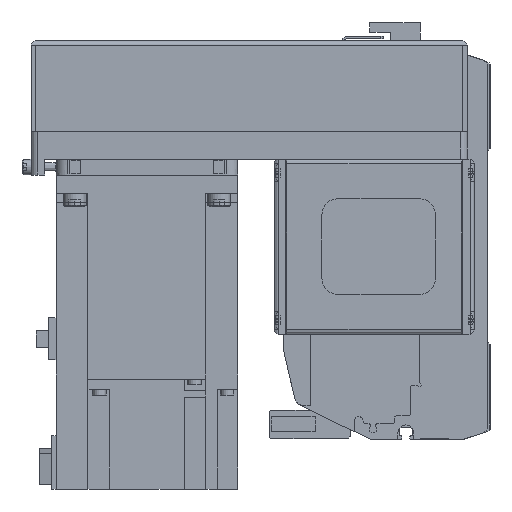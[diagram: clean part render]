
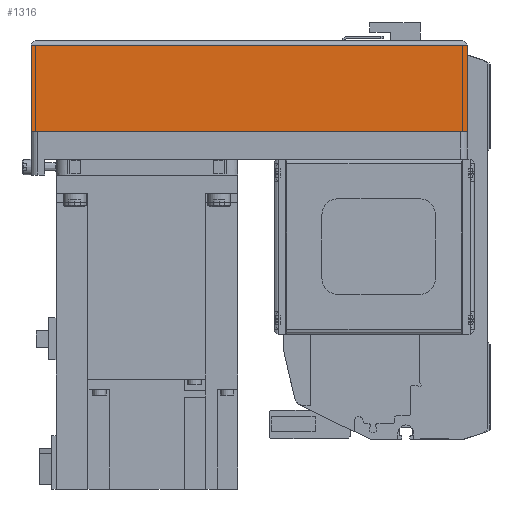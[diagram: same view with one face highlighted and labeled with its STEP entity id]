
A CAD part, left-side view. The second image highlights one B-rep face of the part: STEP entity #1316.
In plain terms, the highlighted planar face has unit normal (-1, 0, 0) as drawn and (0, 1, 0) by its records, which use the part's own axes.
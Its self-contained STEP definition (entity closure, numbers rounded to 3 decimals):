
#1316 = ADVANCED_FACE( '', ( #3659 ), #3660, .T. );
#3659 = FACE_OUTER_BOUND( '', #7463, .T. );
#3660 = PLANE( '', #7464 );
#7463 = EDGE_LOOP( '', ( #11314, #11315, #11316, #11317 ) );
#7464 = AXIS2_PLACEMENT_3D( '', #11318, #11319, #11320 );
#11314 = ORIENTED_EDGE( '', *, *, #21266, .F. );
#11315 = ORIENTED_EDGE( '', *, *, #21267, .F. );
#11316 = ORIENTED_EDGE( '', *, *, #21268, .T. );
#11317 = ORIENTED_EDGE( '', *, *, #21269, .T. );
#11318 = CARTESIAN_POINT( '', ( -192., 40., -50. ) );
#11319 = DIRECTION( '', ( 0., 1., 0. ) );
#11320 = DIRECTION( '', ( 0., 0., 1. ) );
#21266 = EDGE_CURVE( '', #25174, #25175, #25176, .T. );
#21267 = EDGE_CURVE( '', #25177, #25174, #25178, .T. );
#21268 = EDGE_CURVE( '', #25177, #25179, #25180, .T. );
#21269 = EDGE_CURVE( '', #25179, #25175, #25181, .T. );
#25174 = VERTEX_POINT( '', #31014 );
#25175 = VERTEX_POINT( '', #31015 );
#25176 = LINE( '', #31016, #31017 );
#25177 = VERTEX_POINT( '', #31018 );
#25178 = LINE( '', #31019, #31020 );
#25179 = VERTEX_POINT( '', #31021 );
#25180 = LINE( '', #31022, #31023 );
#25181 = LINE( '', #31024, #31025 );
#31014 = CARTESIAN_POINT( '', ( 0., 40., -50. ) );
#31015 = CARTESIAN_POINT( '', ( 0., 40., -12.1 ) );
#31016 = CARTESIAN_POINT( '', ( 0., 40., -50. ) );
#31017 = VECTOR( '', #39973, 1000. );
#31018 = CARTESIAN_POINT( '', ( -192., 40., -50. ) );
#31019 = CARTESIAN_POINT( '', ( -192., 40., -50. ) );
#31020 = VECTOR( '', #39974, 1000. );
#31021 = CARTESIAN_POINT( '', ( -192., 40., -12.1 ) );
#31022 = CARTESIAN_POINT( '', ( -192., 40., -50. ) );
#31023 = VECTOR( '', #39975, 1000. );
#31024 = CARTESIAN_POINT( '', ( -192., 40., -12.1 ) );
#31025 = VECTOR( '', #39976, 1000. );
#39973 = DIRECTION( '', ( 0., 0., 1. ) );
#39974 = DIRECTION( '', ( 1., 0., 0. ) );
#39975 = DIRECTION( '', ( 0., 0., 1. ) );
#39976 = DIRECTION( '', ( 1., 0., 0. ) );
